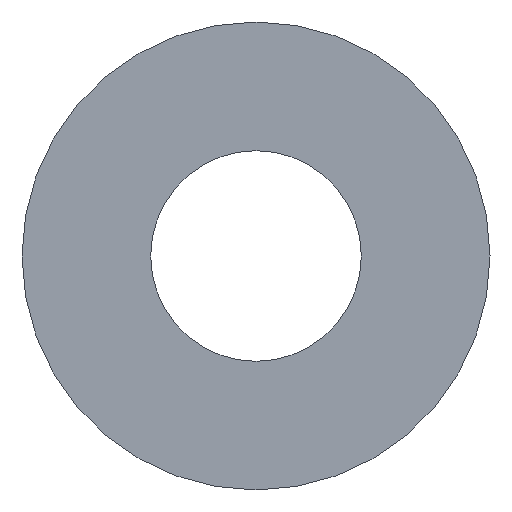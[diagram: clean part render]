
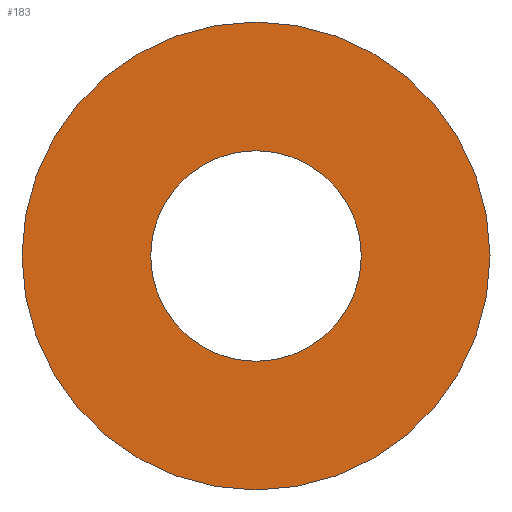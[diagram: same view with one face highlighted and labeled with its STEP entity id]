
A CAD part, left-side view. The second image highlights one B-rep face of the part: STEP entity #183.
In plain terms, the highlighted planar face has unit normal (-1, 0, 0).
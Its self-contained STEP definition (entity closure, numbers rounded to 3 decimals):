
#22 = VERTEX_POINT('',#23);
#23 = CARTESIAN_POINT('',(32.944,5.08,12.));
#32 = CYLINDRICAL_SURFACE('',#33,5.08);
#33 = AXIS2_PLACEMENT_3D('',#34,#35,#36);
#34 = CARTESIAN_POINT('',(32.944,0.,12.));
#35 = DIRECTION('',(-1.,-0.,-0.));
#36 = DIRECTION('',(0.,1.,0.));
#79 = EDGE_CURVE('',#22,#22,#80,.T.);
#80 = SURFACE_CURVE('',#81,(#86,#93),.PCURVE_S1.);
#81 = CIRCLE('',#82,5.08);
#82 = AXIS2_PLACEMENT_3D('',#83,#84,#85);
#83 = CARTESIAN_POINT('',(32.944,0.,12.));
#84 = DIRECTION('',(1.,0.,0.));
#85 = DIRECTION('',(0.,1.,0.));
#86 = PCURVE('',#32,#87);
#87 = DEFINITIONAL_REPRESENTATION('',(#88),#92);
#88 = LINE('',#89,#90);
#89 = CARTESIAN_POINT('',(-0.,0.));
#90 = VECTOR('',#91,1.);
#91 = DIRECTION('',(-1.,0.));
#92 = ( GEOMETRIC_REPRESENTATION_CONTEXT(2) 
PARAMETRIC_REPRESENTATION_CONTEXT() REPRESENTATION_CONTEXT('2D SPACE',''
  ) );
#93 = PCURVE('',#94,#99);
#94 = PLANE('',#95);
#95 = AXIS2_PLACEMENT_3D('',#96,#97,#98);
#96 = CARTESIAN_POINT('',(32.944,0.,12.));
#97 = DIRECTION('',(1.,0.,0.));
#98 = DIRECTION('',(-0.,0.,1.));
#99 = DEFINITIONAL_REPRESENTATION('',(#100),#104);
#100 = CIRCLE('',#101,5.08);
#101 = AXIS2_PLACEMENT_2D('',#102,#103);
#102 = CARTESIAN_POINT('',(0.,0.));
#103 = DIRECTION('',(0.,-1.));
#104 = ( GEOMETRIC_REPRESENTATION_CONTEXT(2) 
PARAMETRIC_REPRESENTATION_CONTEXT() REPRESENTATION_CONTEXT('2D SPACE',''
  ) );
#110 = VERTEX_POINT('',#111);
#111 = CARTESIAN_POINT('',(32.944,2.286,12.));
#120 = CYLINDRICAL_SURFACE('',#121,2.286);
#121 = AXIS2_PLACEMENT_3D('',#122,#123,#124);
#122 = CARTESIAN_POINT('',(32.944,0.,12.));
#123 = DIRECTION('',(-1.,-0.,-0.));
#124 = DIRECTION('',(0.,1.,0.));
#162 = EDGE_CURVE('',#110,#110,#163,.T.);
#163 = SURFACE_CURVE('',#164,(#169,#176),.PCURVE_S1.);
#164 = CIRCLE('',#165,2.286);
#165 = AXIS2_PLACEMENT_3D('',#166,#167,#168);
#166 = CARTESIAN_POINT('',(32.944,0.,12.));
#167 = DIRECTION('',(1.,0.,0.));
#168 = DIRECTION('',(0.,1.,0.));
#169 = PCURVE('',#120,#170);
#170 = DEFINITIONAL_REPRESENTATION('',(#171),#175);
#171 = LINE('',#172,#173);
#172 = CARTESIAN_POINT('',(-0.,0.));
#173 = VECTOR('',#174,1.);
#174 = DIRECTION('',(-1.,0.));
#175 = ( GEOMETRIC_REPRESENTATION_CONTEXT(2) 
PARAMETRIC_REPRESENTATION_CONTEXT() REPRESENTATION_CONTEXT('2D SPACE',''
  ) );
#176 = PCURVE('',#94,#177);
#177 = DEFINITIONAL_REPRESENTATION('',(#178),#182);
#178 = CIRCLE('',#179,2.286);
#179 = AXIS2_PLACEMENT_2D('',#180,#181);
#180 = CARTESIAN_POINT('',(0.,0.));
#181 = DIRECTION('',(0.,-1.));
#182 = ( GEOMETRIC_REPRESENTATION_CONTEXT(2) 
PARAMETRIC_REPRESENTATION_CONTEXT() REPRESENTATION_CONTEXT('2D SPACE',''
  ) );
#183 = ADVANCED_FACE('',(#184,#187),#94,.F.);
#184 = FACE_BOUND('',#185,.F.);
#185 = EDGE_LOOP('',(#186));
#186 = ORIENTED_EDGE('',*,*,#79,.T.);
#187 = FACE_BOUND('',#188,.F.);
#188 = EDGE_LOOP('',(#189));
#189 = ORIENTED_EDGE('',*,*,#162,.F.);
